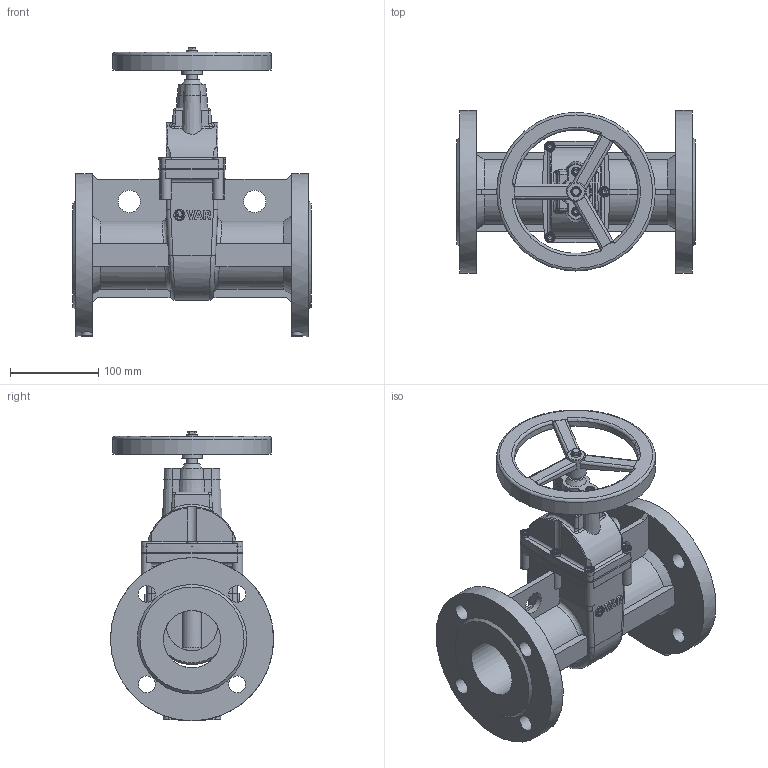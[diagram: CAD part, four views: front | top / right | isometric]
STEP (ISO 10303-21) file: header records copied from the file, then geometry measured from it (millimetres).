
FILE_DESCRIPTION(('STEP AP242'), '1');
FILE_NAME('青溻桄赅', '', ('UNSPECIFIED'), ('UNSPECIFIED'), 'C3D Converter', 'C3D Toolkit', '');
FILE_SCHEMA(('AP242_MANAGED_MODEL_BASED_3D_ENGINEERING_MIM_LF { 1 0 10303 442 1 1 4 }'));
Length unit declared in the file: millimetre
Assembly tree (17 placements, depth 2):
  (unnamed)
    (unnamed)
    (unnamed)
    (unnamed)
    (unnamed)
    (unnamed)  x2
    (unnamed)
    (unnamed)
    (unnamed)
    (unnamed)  x8
Bounding box: 270 x 185 x 328.3 mm (x, y, z)
Volume: 2093705.4 mm3; surface area: 498700 mm2
Topology: 20 solids, 20 shells, 956 faces, 2391 edges, 1523 vertices
Faces by surface type: plane 466, cylinder 186, extrusion 151, cone 69, bspline 63, torus 21
Full cylindrical faces by diameter (mm): 5 x11, 6 x30, 10 x8, 10.2 x8, 12 x7, 12.69 x1, 19 x8, 24.667 x3, 25.25 x2, 58.667 x2, 65 x4, 85.267 x4, 90.333 x1, 140 x1, 150 x1, 170 x1, 180 x1, 185 x2
Entity records: 40615 total; most frequent: CARTESIAN_POINT 19812, ORIENTED_EDGE 3836, DIRECTION 2952, EDGE_CURVE 1918, VERTEX_POINT 1301, VECTOR 1056, EDGE_LOOP 1013, AXIS2_PLACEMENT_3D 948
